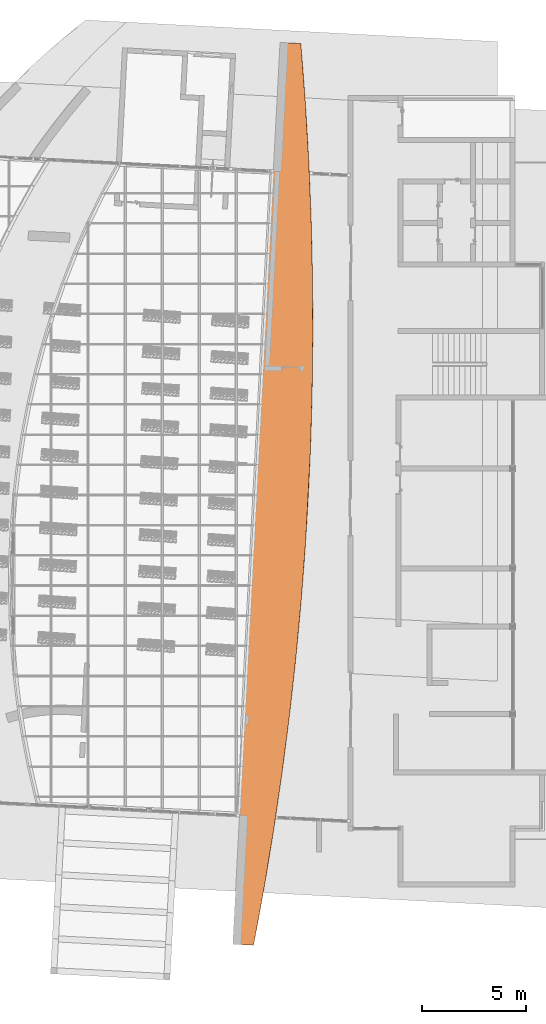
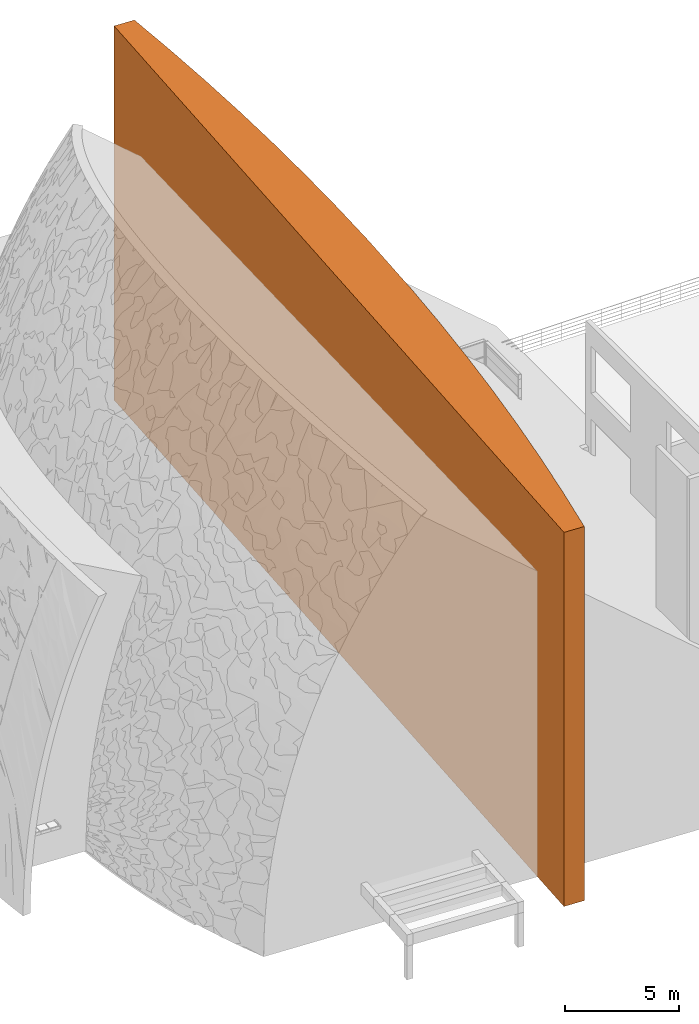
# One storey, part 81 of 82: 1 proxy.
"""IFC2X3 building model written with IfcOpenShell, lengths in millimetres."""

from ifc_helpers import new_model, entity, si_unit, converted_unit, derived_unit, direction, frame, origin, place, context, subcontext, project, spatial, faceted_brep, source, transform, mapped, material, type_object, type_shapes, element, save


model = new_model("IFC2X3")

# Units and contexts
model_context = context("Model", 3, precision=0.01, world=origin(), true_north=direction((6.12303176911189e-17, 1.0)))
body_context = subcontext(model_context, "Body", "Model", "MODEL_VIEW")
ifc_project = project(units=[si_unit("LENGTHUNIT", "METRE", prefix="MILLI"), si_unit("AREAUNIT", "SQUARE_METRE"), si_unit("VOLUMEUNIT", "CUBIC_METRE"), converted_unit("PLANEANGLEUNIT", "DEGREE", entity("IfcRatioMeasure", 0.0174532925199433), si_unit("PLANEANGLEUNIT", "RADIAN"), dimensions=[0, 0, 0, 0, 0, 0, 0]), si_unit("MASSUNIT", "GRAM", prefix="KILO"), derived_unit("MASSDENSITYUNIT", [(si_unit("MASSUNIT", "GRAM", prefix="KILO"), 1), (si_unit("LENGTHUNIT", "METRE"), -3)]), si_unit("TIMEUNIT", "SECOND"), si_unit("FREQUENCYUNIT", "HERTZ"), si_unit("THERMODYNAMICTEMPERATUREUNIT", "DEGREE_CELSIUS"), derived_unit("THERMALTRANSMITTANCEUNIT", [(si_unit("MASSUNIT", "GRAM", prefix="KILO"), 1), (si_unit("THERMODYNAMICTEMPERATUREUNIT", "KELVIN"), -1), (si_unit("TIMEUNIT", "SECOND"), -3)]), derived_unit("VOLUMETRICFLOWRATEUNIT", [(si_unit("LENGTHUNIT", "METRE"), 3), (si_unit("TIMEUNIT", "SECOND"), -1)]), si_unit("ELECTRICCURRENTUNIT", "AMPERE"), si_unit("ELECTRICVOLTAGEUNIT", "VOLT"), si_unit("POWERUNIT", "WATT"), si_unit("FORCEUNIT", "NEWTON", prefix="KILO"), si_unit("ILLUMINANCEUNIT", "LUX"), si_unit("LUMINOUSFLUXUNIT", "LUMEN"), si_unit("LUMINOUSINTENSITYUNIT", "CANDELA"), derived_unit("USERDEFINED", [(si_unit("MASSUNIT", "GRAM", prefix="KILO"), -1), (si_unit("LENGTHUNIT", "METRE"), -2), (si_unit("TIMEUNIT", "SECOND"), 3), (si_unit("LUMINOUSFLUXUNIT", "LUMEN"), 1)]), derived_unit("LINEARVELOCITYUNIT", [(si_unit("LENGTHUNIT", "METRE"), 1), (si_unit("TIMEUNIT", "SECOND"), -1)]), si_unit("PRESSUREUNIT", "PASCAL"), derived_unit("USERDEFINED", [(si_unit("LENGTHUNIT", "METRE"), -2), (si_unit("MASSUNIT", "GRAM", prefix="KILO"), 1), (si_unit("TIMEUNIT", "SECOND"), -2)])], contexts=[model_context])

# Site, building, storey
site_placement = place(None, origin())
site = spatial("IfcSite", under=ifc_project, at=site_placement, Name="表面", CompositionType="ELEMENT")
building_placement = place(site_placement, origin())
building = spatial("IfcBuilding", under=site, at=building_placement, CompositionType="ELEMENT")
storey_placement = place(building_placement, origin())
storey = spatial("IfcBuildingStorey", under=building, at=storey_placement, Name="1F", CompositionType="ELEMENT", Elevation=0.0)

# Proxy
ifc_material = material(Name="默认体量")
building_element_proxy_type = type_object("IfcBuildingElementProxyType", Name="中部体量", PredefinedType="NOTDEFINED", material=ifc_material)
shared_shape = source(origin(), body_context, "Body", "Brep", [
    faceted_brep([(0.0, 53.9312284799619, 20000.0), (0.0, 53.9312284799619, 0.0), (998.629534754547, 1.59527223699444, 0.0), (998.629534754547, 1.59527223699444, 20000.0), (1230.16982492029, 1228.74760763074, 0.0), (1664.05139564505, 3688.35980736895, 0.0), (1505.75864157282, 2764.31763565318, 20000.0), (1451.98168381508, 2457.69447725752, 0.0), (2058.91175757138, 6154.53678071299, 10960.2071107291), (1866.365630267, 4920.66622016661, 0.0), (3299.17166475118, 16689.2530823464, 20000.0), (3241.54528419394, 16018.3013546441, 10221.2156109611), (3439.89056109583, 18494.3573855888, 10097.2757590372), (3004.21100943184, 13545.677897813, 10369.5184964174), (3039.85927044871, 13892.3669798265, 20000.0), (3508.61061283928, 19490.3154014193, 20000.0), (3599.19759533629, 20973.2312400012, 9997.72970285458), (2058.91175757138, 6154.53678071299, 0.0), (1963.58366199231, 5535.63700356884, 20000.0), (2371.95924903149, 8314.6735575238, 20000.0), (2412.82083148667, 8613.18329549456, 10739.0601024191), (2727.94666172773, 11077.1009135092, 10542.1476080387), (2730.75575455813, 11100.5450290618, 20000.0), (3618.86291074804, 21594.0545679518, 20000.0), (3832.14819791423, 32146.5213562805, 9852.16599638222), (3832.49132486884, 32122.9120398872, 20000.0), (3848.86258198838, 29662.590007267, 9841.72170569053), (3848.07668112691, 29314.0738663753, 20000.0), (3826.4371845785, 27178.7036534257, 9855.73466262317), (3776.29818217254, 34629.8809945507, 9887.06495248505), (3618.80965519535, 38359.2901974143, 0.0), (3546.41481472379, 39605.9935027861, 0.0), (3681.32640110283, 37112.0523581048, 9946.40992389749), (3485.57791312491, 40541.5197731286, 20000.0), (3464.14639871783, 40852.0844405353, 0.0), (3372.00957611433, 42097.4846633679, 0.0), (3681.32640110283, 37112.0523581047, 0.0), (3270.01003569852, 43342.1170805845, 20000.0), (3270.01003569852, 43342.1170805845, 0.0), (3664.19903242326, 22213.5325459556, 9957.11230647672), (3764.87757342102, 24695.4789895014, 9894.2013808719), (3729.1152086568, 23697.7937344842, 20000.0), (3813.61432876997, 26505.4038724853, 20000.0), (3766.86320792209, 34931.0266633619, 20000.0), (3651.21316542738, 37737.5262368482, 20000.0), (2271.38050094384, 43394.4530368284, 0.0), (2271.38050094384, 43394.4530368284, 20000.0), (1946.89757223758, 37202.9499213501, 0.0), (1946.89757223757, 37202.9499213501, 11030.2013421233), (324.482928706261, 6245.43434395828, 0.0), (324.482928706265, 6245.43434395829, 12043.9985289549), (3782.70799299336, 34413.9755521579, 0.0), (3837.86653435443, 31714.557831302, 0.0), (3846.78582909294, 29014.5912204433, 0.0), (3809.46325251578, 26314.8676574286, 0.0), (3725.9097406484, 23616.179009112, 0.0), (3619.9317535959, 21593.9985522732, 0.0), (3513.95376654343, 19571.8180954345, 0.0), (3314.95978628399, 16879.1794257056, 0.0), (3069.87995059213, 14190.3439592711, 0.0), (2778.7861559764, 11506.1003681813, 0.0), (2441.76379279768, 8827.23597760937, 0.0)], [[[0, 1, 2, 3]], [[4, 3, 2]], [[5, 6, 7]], [[6, 4, 7]], [[8, 5, 9]], [[10, 11, 12]], [[13, 11, 14]], [[15, 12, 16]], [[9, 17, 8]], [[4, 6, 3]], [[6, 5, 8]], [[18, 6, 8]], [[19, 18, 8]], [[8, 20, 19]], [[20, 21, 22]], [[21, 13, 22]], [[20, 22, 19]], [[22, 13, 14]], [[14, 11, 10]], [[12, 15, 10]], [[16, 23, 15]], [[24, 25, 26]], [[26, 27, 28]], [[25, 24, 29]], [[30, 31, 32]], [[33, 34, 35]], [[34, 33, 31]], [[36, 30, 32]], [[37, 35, 38]], [[39, 40, 41]], [[42, 41, 40]], [[42, 40, 28]], [[27, 42, 28]], [[41, 23, 39]], [[29, 43, 25]], [[27, 26, 25]], [[43, 32, 44]], [[39, 23, 16]], [[33, 44, 32]], [[33, 32, 31]], [[35, 37, 33]], [[32, 43, 29]], [[37, 38, 45, 46]], [[45, 47, 48]], [[48, 46, 45]], [[48, 47, 49]], [[49, 50, 48]], [[49, 1, 50]], [[0, 50, 1]], [[50, 0, 46]], [[46, 48, 50]], [[0, 3, 6, 18, 19, 22, 14, 10, 15, 23, 41, 42, 27, 25, 43, 44, 33, 37, 46]], [[1, 49, 47, 45, 38, 35, 34, 31, 30, 36, 51, 52, 53, 54, 55, 56, 57, 58, 59, 60, 61, 17, 9, 5, 7, 4, 2]], [[61, 20, 17]], [[60, 21, 61]], [[11, 59, 58]], [[60, 59, 13]], [[12, 58, 57]], [[20, 8, 17]], [[21, 20, 61]], [[11, 13, 59]], [[12, 11, 58]], [[21, 60, 13]], [[12, 57, 16]], [[54, 40, 55]], [[53, 28, 54]], [[24, 52, 51]], [[53, 52, 26]], [[29, 51, 36]], [[16, 56, 39]], [[28, 40, 54]], [[56, 55, 39]], [[24, 26, 52]], [[32, 29, 36]], [[24, 51, 29]], [[56, 16, 57]], [[28, 53, 26]], [[39, 55, 40]]]),
])
type_shapes(building_element_proxy_type, [shared_shape])
proxy_placement = place(storey_placement, frame((-20085.0961833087, -35032.9502650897, 0.0)))
element("IfcBuildingElementProxy", 1, at=proxy_placement, inside=storey, type_object=building_element_proxy_type, material=ifc_material, Name="中部体量:中部体量", ObjectType="中部体量", context=body_context, shape_type="MappedRepresentation", body=[
    mapped(shared_shape, transform((0.0, 0.0, 0.0), scale=1.0)),
])

save(model, "model.ifc")
